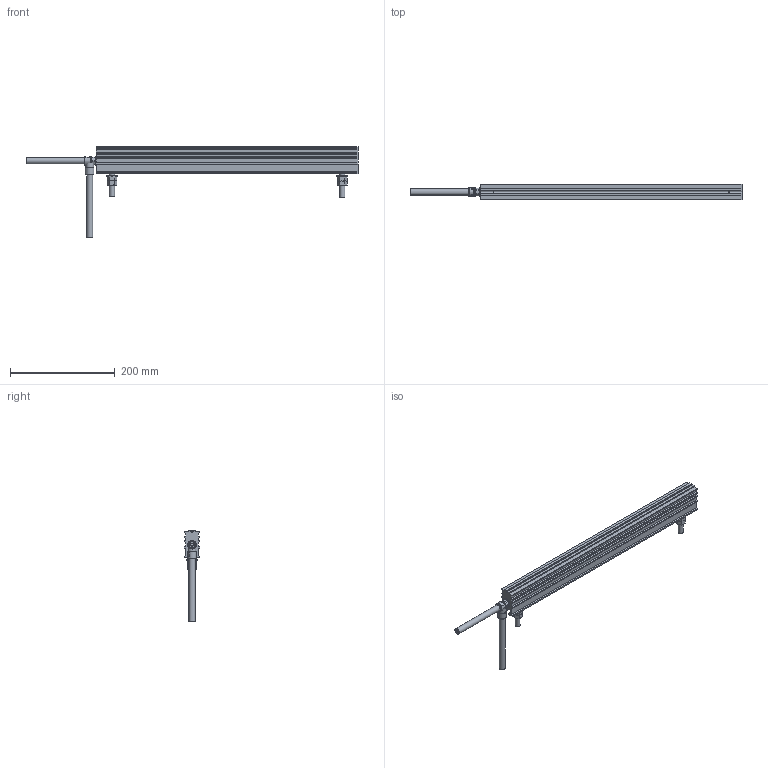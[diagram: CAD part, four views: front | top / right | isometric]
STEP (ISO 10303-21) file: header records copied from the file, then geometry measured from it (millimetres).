
FILE_DESCRIPTION(('Simco (Nederland) B.V.','HiCAD-Model','HiCAD-STEP-TRANSLATION','For information only'),'2;1');
FILE_NAME('SIMCO.STP','2012-01-01T00:00:00',('AB'),('www.simco-ion.nl'),' HiCAD 2011, Step 1600.0 ','HiCAD 2011','CONFIDENTIAL');
FILE_SCHEMA(('AUTOMOTIVE_DESIGN { 1 2 10303 214 0 1 1 1 }'));
Length unit declared in the file: millimetre
Products named in the file (21): SIMCO_HDC_HDR; SIMCO0HDC0HDR; MOUNTING_BOLT; MOUNTING0BOLT; GLAND; HDC_HDR; GLAND_RA; CABLE; GEWINDE; M10_WASHER; M10_NUT; GEWINDE0; M100NUT; GEWINDE1; GEWINDE2; M100WASHER; M100NUT0; M100NUT1; GEWINDE3; GEWINDE4; CABLE0
Assembly tree (20 placements, depth 3):
  SIMCO_HDC_HDR
    SIMCO0HDC0HDR
      MOUNTING_BOLT
      MOUNTING0BOLT
      GLAND
      HDC_HDR
      GLAND_RA
      CABLE
      GEWINDE
      M10_WASHER
      M10_NUT
      GEWINDE0
      M100NUT
      GEWINDE1
      GEWINDE2
      M100WASHER
      M100NUT0
      M100NUT1
      GEWINDE3
      GEWINDE4
      CABLE0
Bounding box: 634.4 x 28.8 x 173.85 mm (x, y, z)
Volume: 598710.7 mm3; surface area: 157263.2 mm2
Topology: 19 solids, 19 shells, 228 faces, 565 edges, 369 vertices
Faces by surface type: plane 143, cylinder 45, cone 36, torus 2, sphere 2
Full cylindrical faces by diameter (mm): 1.42 x2, 6 x2, 8 x3, 8.16 x8, 10 x12, 10.5 x2, 11.5 x2, 12 x3, 15 x2, 16.5 x4, 21 x2
Entity records: 10442 total; most frequent: CARTESIAN_POINT 2758, DIRECTION 1046, ORIENTED_EDGE 896, COLOUR_RGB 468, PRESENTATION_STYLE_ASSIGNMENT 468, OVER_RIDING_STYLED_ITEM 449, EDGE_CURVE 448, CURVE_STYLE 438
